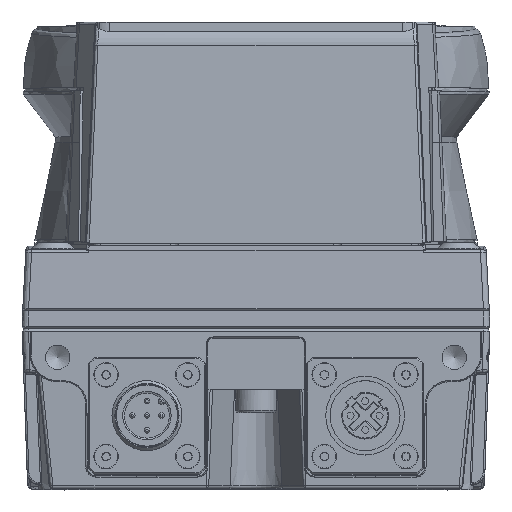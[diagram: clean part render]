
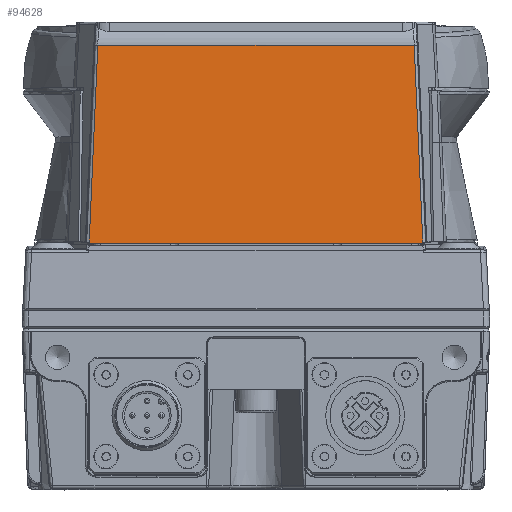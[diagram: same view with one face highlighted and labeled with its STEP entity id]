
A CAD part, top view. The second image highlights one B-rep face of the part: STEP entity #94628.
In plain terms, the highlighted planar face has unit normal (0, 0.044, 0.999).
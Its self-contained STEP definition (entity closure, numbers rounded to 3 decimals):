
#4906 = DIRECTION ( 'NONE',  ( 1., 0., 0. ) ) ;
#12293 = DIRECTION ( 'NONE',  ( -1., 0., 0. ) ) ;
#14853 = CARTESIAN_POINT ( 'NONE',  ( -71.334, 21.41, 46.656 ) ) ;
#16388 = DIRECTION ( 'NONE',  ( -0.044, -0.998, 0.044 ) ) ;
#19940 = VERTEX_POINT ( 'NONE', #14853 ) ;
#21029 = PLANE ( 'NONE',  #25222 ) ;
#25222 = AXIS2_PLACEMENT_3D ( 'NONE', #60306, #80261, #99585 ) ;
#28330 = DIRECTION ( 'NONE',  ( -0.044, 0.998, -0.044 ) ) ;
#32257 = CARTESIAN_POINT ( 'NONE',  ( -84.212, -12.467, 48.135 ) ) ;
#35792 = CARTESIAN_POINT ( 'NONE',  ( -110.844, 21.41, 46.656 ) ) ;
#38054 = VECTOR ( 'NONE', #28330, 1000. ) ;
#42989 = CARTESIAN_POINT ( 'NONE',  ( -17.091, 21.41, 46.656 ) ) ;
#46122 = EDGE_CURVE ( 'NONE', #55406, #123483, #116573, .T. ) ;
#48783 = VECTOR ( 'NONE', #4906, 1000. ) ;
#49173 = ORIENTED_EDGE ( 'NONE', *, *, #52188, .F. ) ;
#52188 = EDGE_CURVE ( 'NONE', #55406, #71289, #100513, .T. ) ;
#55406 = VERTEX_POINT ( 'NONE', #77674 ) ;
#55668 = LINE ( 'NONE', #65970, #66596 ) ;
#59583 = ORIENTED_EDGE ( 'NONE', *, *, #46122, .T. ) ;
#60306 = CARTESIAN_POINT ( 'NONE',  ( -110.844, 21.41, 46.656 ) ) ;
#61051 = VECTOR ( 'NONE', #12293, 1000. ) ;
#65970 = CARTESIAN_POINT ( 'NONE',  ( -72.812, -12.488, 48.136 ) ) ;
#66596 = VECTOR ( 'NONE', #16388, 1000. ) ;
#69332 = FACE_OUTER_BOUND ( 'NONE', #73259, .T. ) ;
#71289 = VERTEX_POINT ( 'NONE', #116019 ) ;
#72591 = ORIENTED_EDGE ( 'NONE', *, *, #105385, .F. ) ;
#73259 = EDGE_LOOP ( 'NONE', ( #72591, #73405, #49173, #59583 ) ) ;
#73405 = ORIENTED_EDGE ( 'NONE', *, *, #97312, .T. ) ;
#77674 = CARTESIAN_POINT ( 'NONE',  ( -15.613, -12.467, 48.135 ) ) ;
#80261 = DIRECTION ( 'NONE',  ( 0., -0.044, -0.999 ) ) ;
#93104 = LINE ( 'NONE', #35792, #48783 ) ;
#94628 = ADVANCED_FACE ( 'NONE', ( #69332 ), #21029, .F. ) ;
#97312 = EDGE_CURVE ( 'NONE', #19940, #71289, #55668, .T. ) ;
#99585 = DIRECTION ( 'NONE',  ( 1., 0., 0. ) ) ;
#100513 = LINE ( 'NONE', #32257, #61051 ) ;
#105385 = EDGE_CURVE ( 'NONE', #19940, #123483, #93104, .T. ) ;
#115931 = CARTESIAN_POINT ( 'NONE',  ( -17.09, 21.388, 46.657 ) ) ;
#116019 = CARTESIAN_POINT ( 'NONE',  ( -72.811, -12.467, 48.135 ) ) ;
#116573 = LINE ( 'NONE', #115931, #38054 ) ;
#123483 = VERTEX_POINT ( 'NONE', #42989 ) ;
